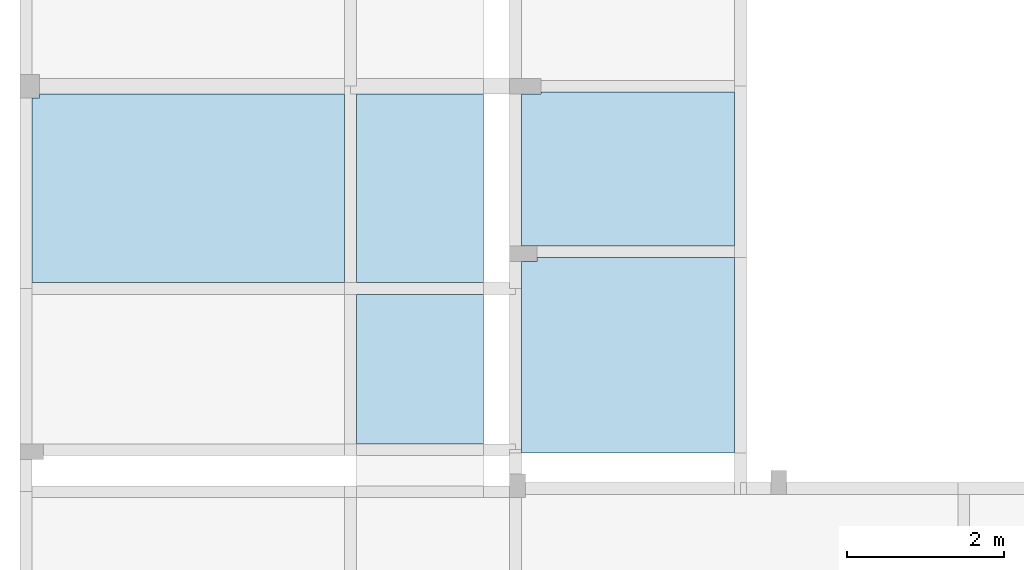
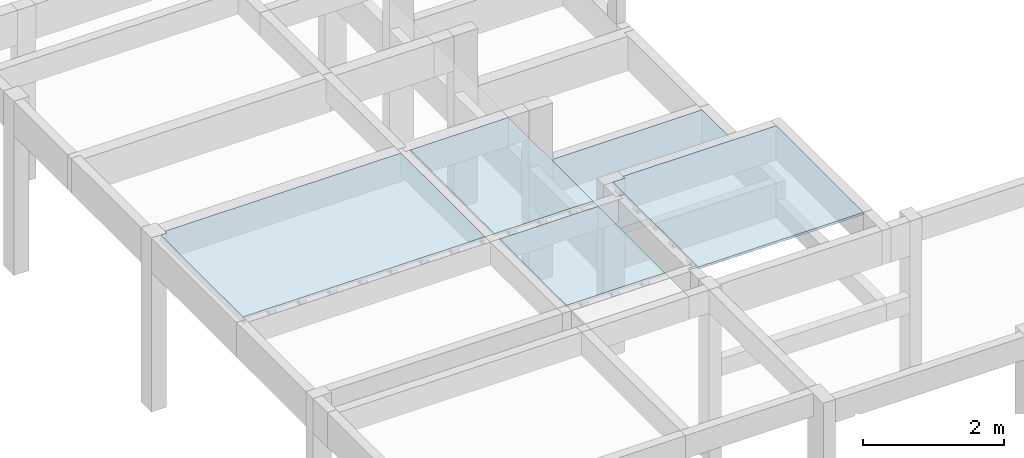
# One storey, part 9 of 21: 5 slabs.
"""IFC4 building model written with IfcOpenShell, lengths in centimetres."""

from ifc_helpers import new_model, si_unit, derived_unit, frame, origin_with_axes, place, context, project, spatial, polyline, outline, extrude, faceted_brep, material, element, save


model = new_model("IFC4")

# Units and contexts
model_context = context("Model", 3, precision=1e-05, world=origin_with_axes(), identifier="Body")
ifc_project = project(units=[si_unit("LENGTHUNIT", "METRE", prefix="CENTI"), si_unit("VOLUMEUNIT", "CUBIC_METRE"), si_unit("AREAUNIT", "SQUARE_METRE"), si_unit("POWERUNIT", "WATT"), si_unit("LUMINOUSFLUXUNIT", "LUMEN"), si_unit("ELECTRICCURRENTUNIT", "AMPERE"), si_unit("PRESSUREUNIT", "PASCAL", prefix="KILO"), si_unit("MASSUNIT", "GRAM", prefix="KILO"), si_unit("PLANEANGLEUNIT", "RADIAN"), derived_unit("VOLUMETRICFLOWRATEUNIT", [(si_unit("LENGTHUNIT", "METRE"), 3), (si_unit("TIMEUNIT", "SECOND"), -1)])], contexts=[model_context])

# Site, building, storey
site_placement = place(None, origin_with_axes())
site = spatial("IfcSite", under=ifc_project, at=site_placement)
building_placement = place(site_placement, frame((0.0, 0.0, -295.0)))
building = spatial("IfcBuilding", under=site, at=building_placement)
placement_1 = place(building_placement, origin_with_axes())
placement_2 = place(placement_1, frame((0.0, 0.0, 101.0), z_axis=(0.0, 0.0, 1.0), x_axis=(1.0, 0.0, 0.0)))
placement_3 = place(placement_2, frame((0.0, 0.0, 204.0), z_axis=(0.0, 0.0, 1.0), x_axis=(1.0, 0.0, 0.0)))
placement_4 = place(placement_3, frame((0.0, 0.0, 292.0), z_axis=(0.0, 0.0, 1.0), x_axis=(1.0, 0.0, 0.0)))
storey_placement = place(placement_4, frame((0.0, 0.0, 302.0), z_axis=(0.0, 0.0, 1.0), x_axis=(1.0, 0.0, 0.0)))
storey = spatial("IfcBuildingStorey", under=building, at=storey_placement, Name="PAVTO 02", CompositionType="ELEMENT", Elevation=604.0)

# Slabs
ifc_material = material(Name="Concreto")
slab_1_placement = place(storey_placement, frame((765.3995, -6455.3295047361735, 0.0), z_axis=(0.0, 0.0, 1.0), x_axis=(1.0, 0.0, 0.0)))
element("IfcSlab", 1, at=slab_1_placement, inside=storey, material=ifc_material, Name="L226", PredefinedType="FLOOR", context=model_context, shape_type="SolidModel", body=[
    extrude(outline(polyline([(198.669, 119.71), (-188.669, 119.709), (-188.669, 114.71), (-198.67, 114.71), (-198.67, -119.709), (198.669, -119.709), (198.669, 119.71), (198.669, 119.71)])), frame((0.0005, -0.000495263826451, -4.0), z_axis=(0.0, 0.0, 1.0), x_axis=(1.0, 0.0, 0.0)), (0.0, 0.0, 1.0), 4.0),
    faceted_brep([(-4.9995, -119.70949526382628, -12.0), (-4.9995, 119.70900473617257, -12.0), (5.0005, 119.70900473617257, -12.0), (5.0005, -119.70949526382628, -12.0), (5.0005, -119.70949526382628, -4.0), (5.0005, 119.70900473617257, -4.0), (-4.9995, 119.70900473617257, -4.0), (-4.9995, -119.70949526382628, -4.0)], [[[0, 1, 2, 3]], [[4, 5, 6, 7]], [[4, 3, 5]], [[3, 2, 5]], [[5, 2, 6]], [[2, 1, 6]], [[6, 1, 7]], [[1, 0, 7]], [[7, 0, 4]], [[0, 3, 4]]]),
    faceted_brep([(-6.4995, -119.70949526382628, -12.0), (-6.4995, 119.70900473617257, -12.0), (-4.9995, 119.70900473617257, -12.0), (-4.9995, -119.70949526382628, -12.0), (-4.9995, -119.70949526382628, -9.0), (-4.9995, 119.70900473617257, -9.0), (-6.4995, 119.70900473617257, -9.0), (-6.4995, -119.70949526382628, -9.0)], [[[0, 1, 2, 3]], [[4, 5, 6, 7]], [[4, 3, 5]], [[3, 2, 5]], [[5, 2, 6]], [[2, 1, 6]], [[6, 1, 7]], [[1, 0, 7]], [[7, 0, 4]], [[0, 3, 4]]]),
    faceted_brep([(5.0005, -119.70949526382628, -12.0), (5.0005, 119.70900473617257, -12.0), (6.5005, 119.70900473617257, -12.0), (6.5005, -119.70949526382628, -12.0), (6.5005, -119.70949526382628, -9.0), (6.5005, 119.70900473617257, -9.0), (5.0005, 119.70900473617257, -9.0), (5.0005, -119.70949526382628, -9.0)], [[[0, 1, 2, 3]], [[4, 5, 6, 7]], [[4, 3, 5]], [[3, 2, 5]], [[5, 2, 6]], [[2, 1, 6]], [[6, 1, 7]], [[1, 0, 7]], [[7, 0, 4]], [[0, 3, 4]]]),
    faceted_brep([(-54.9995, -119.70949526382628, -12.0), (-54.9995, 119.70900473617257, -12.0), (-44.9995, 119.70900473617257, -12.0), (-44.9995, -119.70949526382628, -12.0), (-44.9995, -119.70949526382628, -4.0), (-44.9995, 119.70900473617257, -4.0), (-54.9995, 119.70900473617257, -4.0), (-54.9995, -119.70949526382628, -4.0)], [[[0, 1, 2, 3]], [[4, 5, 6, 7]], [[4, 3, 5]], [[3, 2, 5]], [[5, 2, 6]], [[2, 1, 6]], [[6, 1, 7]], [[1, 0, 7]], [[7, 0, 4]], [[0, 3, 4]]]),
    faceted_brep([(-56.4995, -119.70949526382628, -12.0), (-56.4995, 119.70900473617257, -12.0), (-54.9995, 119.70900473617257, -12.0), (-54.9995, -119.70949526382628, -12.0), (-54.9995, -119.70949526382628, -9.0), (-54.9995, 119.70900473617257, -9.0), (-56.4995, 119.70900473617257, -9.0), (-56.4995, -119.70949526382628, -9.0)], [[[0, 1, 2, 3]], [[4, 5, 6, 7]], [[4, 3, 5]], [[3, 2, 5]], [[5, 2, 6]], [[2, 1, 6]], [[6, 1, 7]], [[1, 0, 7]], [[7, 0, 4]], [[0, 3, 4]]]),
    faceted_brep([(-44.9995, -119.70949526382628, -12.0), (-44.9995, 119.70900473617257, -12.0), (-43.4995, 119.70900473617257, -12.0), (-43.4995, -119.70949526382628, -12.0), (-43.4995, -119.70949526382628, -9.0), (-43.4995, 119.70900473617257, -9.0), (-44.9995, 119.70900473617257, -9.0), (-44.9995, -119.70949526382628, -9.0)], [[[0, 1, 2, 3]], [[4, 5, 6, 7]], [[4, 3, 5]], [[3, 2, 5]], [[5, 2, 6]], [[2, 1, 6]], [[6, 1, 7]], [[1, 0, 7]], [[7, 0, 4]], [[0, 3, 4]]]),
    faceted_brep([(-104.9995, -119.70949526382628, -12.0), (-104.9995, 119.70900473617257, -12.0), (-94.9995, 119.70900473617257, -12.0), (-94.9995, -119.70949526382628, -12.0), (-94.9995, -119.70949526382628, -4.0), (-94.9995, 119.70900473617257, -4.0), (-104.9995, 119.70900473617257, -4.0), (-104.9995, -119.70949526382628, -4.0)], [[[0, 1, 2, 3]], [[4, 5, 6, 7]], [[4, 3, 5]], [[3, 2, 5]], [[5, 2, 6]], [[2, 1, 6]], [[6, 1, 7]], [[1, 0, 7]], [[7, 0, 4]], [[0, 3, 4]]]),
    faceted_brep([(-106.4995, -119.70949526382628, -12.0), (-106.4995, 119.70900473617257, -12.0), (-104.9995, 119.70900473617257, -12.0), (-104.9995, -119.70949526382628, -12.0), (-104.9995, -119.70949526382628, -9.0), (-104.9995, 119.70900473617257, -9.0), (-106.4995, 119.70900473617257, -9.0), (-106.4995, -119.70949526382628, -9.0)], [[[0, 1, 2, 3]], [[4, 5, 6, 7]], [[4, 3, 5]], [[3, 2, 5]], [[5, 2, 6]], [[2, 1, 6]], [[6, 1, 7]], [[1, 0, 7]], [[7, 0, 4]], [[0, 3, 4]]]),
    faceted_brep([(-94.9995, -119.70949526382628, -12.0), (-94.9995, 119.70900473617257, -12.0), (-93.4995, 119.70900473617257, -12.0), (-93.4995, -119.70949526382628, -12.0), (-93.4995, -119.70949526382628, -9.0), (-93.4995, 119.70900473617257, -9.0), (-94.9995, 119.70900473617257, -9.0), (-94.9995, -119.70949526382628, -9.0)], [[[0, 1, 2, 3]], [[4, 5, 6, 7]], [[4, 3, 5]], [[3, 2, 5]], [[5, 2, 6]], [[2, 1, 6]], [[6, 1, 7]], [[1, 0, 7]], [[7, 0, 4]], [[0, 3, 4]]]),
    faceted_brep([(-154.9995, -119.70949526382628, -12.0), (-154.9995, 119.70900473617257, -12.0), (-144.9995, 119.70900473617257, -12.0), (-144.9995, -119.70949526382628, -12.0), (-144.9995, -119.70949526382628, -4.0), (-144.9995, 119.70900473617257, -4.0), (-154.9995, 119.70900473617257, -4.0), (-154.9995, -119.70949526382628, -4.0)], [[[0, 1, 2, 3]], [[4, 5, 6, 7]], [[4, 3, 5]], [[3, 2, 5]], [[5, 2, 6]], [[2, 1, 6]], [[6, 1, 7]], [[1, 0, 7]], [[7, 0, 4]], [[0, 3, 4]]]),
    faceted_brep([(-156.4995, -119.70949526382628, -12.0), (-156.4995, 119.70900473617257, -12.0), (-154.9995, 119.70900473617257, -12.0), (-154.9995, -119.70949526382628, -12.0), (-154.9995, -119.70949526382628, -9.0), (-154.9995, 119.70900473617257, -9.0), (-156.4995, 119.70900473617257, -9.0), (-156.4995, -119.70949526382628, -9.0)], [[[0, 1, 2, 3]], [[4, 5, 6, 7]], [[4, 3, 5]], [[3, 2, 5]], [[5, 2, 6]], [[2, 1, 6]], [[6, 1, 7]], [[1, 0, 7]], [[7, 0, 4]], [[0, 3, 4]]]),
    faceted_brep([(-144.9995, -119.70949526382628, -12.0), (-144.9995, 119.70900473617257, -12.0), (-143.4995, 119.70900473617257, -12.0), (-143.4995, -119.70949526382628, -12.0), (-143.4995, -119.70949526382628, -9.0), (-143.4995, 119.70900473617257, -9.0), (-144.9995, 119.70900473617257, -9.0), (-144.9995, -119.70949526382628, -9.0)], [[[0, 1, 2, 3]], [[4, 5, 6, 7]], [[4, 3, 5]], [[3, 2, 5]], [[5, 2, 6]], [[2, 1, 6]], [[6, 1, 7]], [[1, 0, 7]], [[7, 0, 4]], [[0, 3, 4]]]),
    faceted_brep([(-198.6695, -119.70949526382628, -12.0), (-198.6695, 114.70950473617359, -12.0), (-194.9995, 114.70950473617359, -12.0), (-194.9995, -119.70949526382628, -12.0), (-194.9995, -119.70949526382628, -4.0), (-194.9995, 114.70950473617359, -4.0), (-198.6695, 114.70950473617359, -4.0), (-198.6695, -119.70949526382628, -4.0)], [[[0, 1, 2, 3]], [[4, 5, 6, 7]], [[4, 3, 5]], [[3, 2, 5]], [[5, 2, 6]], [[2, 1, 6]], [[6, 1, 7]], [[1, 0, 7]], [[7, 0, 4]], [[0, 3, 4]]]),
    faceted_brep([(-194.9995, -119.70949526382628, -12.0), (-194.9995, 114.70950473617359, -12.0), (-193.4995, 114.70950473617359, -12.0), (-193.4995, -119.70949526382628, -12.0), (-193.4995, -119.70949526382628, -9.0), (-193.4995, 114.70950473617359, -9.0), (-194.9995, 114.70950473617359, -9.0), (-194.9995, -119.70949526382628, -9.0)], [[[0, 1, 2, 3]], [[4, 5, 6, 7]], [[4, 3, 5]], [[3, 2, 5]], [[5, 2, 6]], [[2, 1, 6]], [[6, 1, 7]], [[1, 0, 7]], [[7, 0, 4]], [[0, 3, 4]]]),
    faceted_brep([(45.0005, -119.70949526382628, -12.0), (45.0005, 119.70900473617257, -12.0), (55.0005, 119.70900473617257, -12.0), (55.0005, -119.70949526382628, -12.0), (55.0005, -119.70949526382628, -4.0), (55.0005, 119.70900473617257, -4.0), (45.0005, 119.70900473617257, -4.0), (45.0005, -119.70949526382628, -4.0)], [[[0, 1, 2, 3]], [[4, 5, 6, 7]], [[4, 3, 5]], [[3, 2, 5]], [[5, 2, 6]], [[2, 1, 6]], [[6, 1, 7]], [[1, 0, 7]], [[7, 0, 4]], [[0, 3, 4]]]),
    faceted_brep([(43.5005, -119.70949526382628, -12.0), (43.5005, 119.70900473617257, -12.0), (45.0005, 119.70900473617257, -12.0), (45.0005, -119.70949526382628, -12.0), (45.0005, -119.70949526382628, -9.0), (45.0005, 119.70900473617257, -9.0), (43.5005, 119.70900473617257, -9.0), (43.5005, -119.70949526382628, -9.0)], [[[0, 1, 2, 3]], [[4, 5, 6, 7]], [[4, 3, 5]], [[3, 2, 5]], [[5, 2, 6]], [[2, 1, 6]], [[6, 1, 7]], [[1, 0, 7]], [[7, 0, 4]], [[0, 3, 4]]]),
    faceted_brep([(55.0005, -119.70949526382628, -12.0), (55.0005, 119.70900473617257, -12.0), (56.5005, 119.70900473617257, -12.0), (56.5005, -119.70949526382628, -12.0), (56.5005, -119.70949526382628, -9.0), (56.5005, 119.70900473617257, -9.0), (55.0005, 119.70900473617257, -9.0), (55.0005, -119.70949526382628, -9.0)], [[[0, 1, 2, 3]], [[4, 5, 6, 7]], [[4, 3, 5]], [[3, 2, 5]], [[5, 2, 6]], [[2, 1, 6]], [[6, 1, 7]], [[1, 0, 7]], [[7, 0, 4]], [[0, 3, 4]]]),
    faceted_brep([(95.0005, -119.70949526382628, -12.0), (95.0005, 119.70900473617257, -12.0), (105.0005, 119.70900473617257, -12.0), (105.0005, -119.70949526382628, -12.0), (105.0005, -119.70949526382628, -4.0), (105.0005, 119.70900473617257, -4.0), (95.0005, 119.70900473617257, -4.0), (95.0005, -119.70949526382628, -4.0)], [[[0, 1, 2, 3]], [[4, 5, 6, 7]], [[4, 3, 5]], [[3, 2, 5]], [[5, 2, 6]], [[2, 1, 6]], [[6, 1, 7]], [[1, 0, 7]], [[7, 0, 4]], [[0, 3, 4]]]),
    faceted_brep([(93.5005, -119.70949526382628, -12.0), (93.5005, 119.70900473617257, -12.0), (95.0005, 119.70900473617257, -12.0), (95.0005, -119.70949526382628, -12.0), (95.0005, -119.70949526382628, -9.0), (95.0005, 119.70900473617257, -9.0), (93.5005, 119.70900473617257, -9.0), (93.5005, -119.70949526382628, -9.0)], [[[0, 1, 2, 3]], [[4, 5, 6, 7]], [[4, 3, 5]], [[3, 2, 5]], [[5, 2, 6]], [[2, 1, 6]], [[6, 1, 7]], [[1, 0, 7]], [[7, 0, 4]], [[0, 3, 4]]]),
    faceted_brep([(105.0005, -119.70949526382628, -12.0), (105.0005, 119.70900473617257, -12.0), (106.5005, 119.70900473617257, -12.0), (106.5005, -119.70949526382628, -12.0), (106.5005, -119.70949526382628, -9.0), (106.5005, 119.70900473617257, -9.0), (105.0005, 119.70900473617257, -9.0), (105.0005, -119.70949526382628, -9.0)], [[[0, 1, 2, 3]], [[4, 5, 6, 7]], [[4, 3, 5]], [[3, 2, 5]], [[5, 2, 6]], [[2, 1, 6]], [[6, 1, 7]], [[1, 0, 7]], [[7, 0, 4]], [[0, 3, 4]]]),
    faceted_brep([(145.0005, -119.70949526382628, -12.0), (145.0005, 119.70900473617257, -12.0), (155.0005, 119.70900473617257, -12.0), (155.0005, -119.70949526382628, -12.0), (155.0005, -119.70949526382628, -4.0), (155.0005, 119.70900473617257, -4.0), (145.0005, 119.70900473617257, -4.0), (145.0005, -119.70949526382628, -4.0)], [[[0, 1, 2, 3]], [[4, 5, 6, 7]], [[4, 3, 5]], [[3, 2, 5]], [[5, 2, 6]], [[2, 1, 6]], [[6, 1, 7]], [[1, 0, 7]], [[7, 0, 4]], [[0, 3, 4]]]),
    faceted_brep([(143.5005, -119.70949526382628, -12.0), (143.5005, 119.70900473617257, -12.0), (145.0005, 119.70900473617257, -12.0), (145.0005, -119.70949526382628, -12.0), (145.0005, -119.70949526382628, -9.0), (145.0005, 119.70900473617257, -9.0), (143.5005, 119.70900473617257, -9.0), (143.5005, -119.70949526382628, -9.0)], [[[0, 1, 2, 3]], [[4, 5, 6, 7]], [[4, 3, 5]], [[3, 2, 5]], [[5, 2, 6]], [[2, 1, 6]], [[6, 1, 7]], [[1, 0, 7]], [[7, 0, 4]], [[0, 3, 4]]]),
    faceted_brep([(155.0005, -119.70949526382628, -12.0), (155.0005, 119.70900473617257, -12.0), (156.5005, 119.70900473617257, -12.0), (156.5005, -119.70949526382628, -12.0), (156.5005, -119.70949526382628, -9.0), (156.5005, 119.70900473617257, -9.0), (155.0005, 119.70900473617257, -9.0), (155.0005, -119.70949526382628, -9.0)], [[[0, 1, 2, 3]], [[4, 5, 6, 7]], [[4, 3, 5]], [[3, 2, 5]], [[5, 2, 6]], [[2, 1, 6]], [[6, 1, 7]], [[1, 0, 7]], [[7, 0, 4]], [[0, 3, 4]]]),
    faceted_brep([(195.0005, -119.70949526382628, -12.0), (195.0005, 119.70900473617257, -12.0), (198.6695, 119.70949526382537, -12.0), (198.6695, -119.70949526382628, -12.0), (198.6695, -119.70949526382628, -4.0), (198.6695, 119.70949526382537, -4.0), (195.0005, 119.70900473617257, -4.0), (195.0005, -119.70949526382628, -4.0)], [[[0, 1, 2, 3]], [[4, 5, 6, 7]], [[4, 3, 5]], [[3, 2, 5]], [[5, 2, 6]], [[2, 1, 6]], [[6, 1, 7]], [[1, 0, 7]], [[7, 0, 4]], [[0, 3, 4]]]),
    faceted_brep([(193.5005, -119.70949526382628, -12.0), (193.5005, 119.70900473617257, -12.0), (195.0005, 119.70900473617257, -12.0), (195.0005, -119.70949526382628, -12.0), (195.0005, -119.70949526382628, -9.0), (195.0005, 119.70900473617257, -9.0), (193.5005, 119.70900473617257, -9.0), (193.5005, -119.70949526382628, -9.0)], [[[0, 1, 2, 3]], [[4, 5, 6, 7]], [[4, 3, 5]], [[3, 2, 5]], [[5, 2, 6]], [[2, 1, 6]], [[6, 1, 7]], [[1, 0, 7]], [[7, 0, 4]], [[0, 3, 4]]]),
])
slab_2_placement = place(storey_placement, frame((1059.985, -6455.33, 0.0), z_axis=(0.0, 0.0, 1.0), x_axis=(1.0, 0.0, 0.0)))
element("IfcSlab", 2, at=slab_2_placement, inside=storey, material=ifc_material, Name="L227", PredefinedType="FLOOR", context=model_context, shape_type="SolidModel", body=[
    extrude(outline(polyline([(80.915, -119.709), (80.915, 119.71), (-80.914, 119.71), (-80.915, -119.71), (80.915, -119.709), (80.915, -119.709)])), frame((0.0, 0.0, -4.0), z_axis=(0.0, 0.0, 1.0), x_axis=(1.0, 0.0, 0.0)), (0.0, 0.0, 1.0), 4.0),
    faceted_brep([(-5.0, -119.7095, -12.0), (-5.0, 119.71, -12.0), (5.0, 119.71, -12.0), (5.0, -119.7095, -12.0), (5.0, -119.7095, -4.0), (5.0, 119.71, -4.0), (-5.0, 119.71, -4.0), (-5.0, -119.7095, -4.0)], [[[0, 1, 2, 3]], [[4, 5, 6, 7]], [[4, 3, 5]], [[3, 2, 5]], [[5, 2, 6]], [[2, 1, 6]], [[6, 1, 7]], [[1, 0, 7]], [[7, 0, 4]], [[0, 3, 4]]]),
    faceted_brep([(-6.5, -119.7095, -12.0), (-6.5, 119.71, -12.0), (-5.0, 119.71, -12.0), (-5.0, -119.7095, -12.0), (-5.0, -119.7095, -9.0), (-5.0, 119.71, -9.0), (-6.5, 119.71, -9.0), (-6.5, -119.7095, -9.0)], [[[0, 1, 2, 3]], [[4, 5, 6, 7]], [[4, 3, 5]], [[3, 2, 5]], [[5, 2, 6]], [[2, 1, 6]], [[6, 1, 7]], [[1, 0, 7]], [[7, 0, 4]], [[0, 3, 4]]]),
    faceted_brep([(5.0, -119.7095, -12.0), (5.0, 119.71, -12.0), (6.5, 119.71, -12.0), (6.5, -119.7095, -12.0), (6.5, -119.7095, -9.0), (6.5, 119.71, -9.0), (5.0, 119.71, -9.0), (5.0, -119.7095, -9.0)], [[[0, 1, 2, 3]], [[4, 5, 6, 7]], [[4, 3, 5]], [[3, 2, 5]], [[5, 2, 6]], [[2, 1, 6]], [[6, 1, 7]], [[1, 0, 7]], [[7, 0, 4]], [[0, 3, 4]]]),
    faceted_brep([(-55.0, -119.7095, -12.0), (-55.0, 119.71, -12.0), (-45.0, 119.71, -12.0), (-45.0, -119.7095, -12.0), (-45.0, -119.7095, -4.0), (-45.0, 119.71, -4.0), (-55.0, 119.71, -4.0), (-55.0, -119.7095, -4.0)], [[[0, 1, 2, 3]], [[4, 5, 6, 7]], [[4, 3, 5]], [[3, 2, 5]], [[5, 2, 6]], [[2, 1, 6]], [[6, 1, 7]], [[1, 0, 7]], [[7, 0, 4]], [[0, 3, 4]]]),
    faceted_brep([(-56.5, -119.7095, -12.0), (-56.5, 119.71, -12.0), (-55.0, 119.71, -12.0), (-55.0, -119.7095, -12.0), (-55.0, -119.7095, -9.0), (-55.0, 119.71, -9.0), (-56.5, 119.71, -9.0), (-56.5, -119.7095, -9.0)], [[[0, 1, 2, 3]], [[4, 5, 6, 7]], [[4, 3, 5]], [[3, 2, 5]], [[5, 2, 6]], [[2, 1, 6]], [[6, 1, 7]], [[1, 0, 7]], [[7, 0, 4]], [[0, 3, 4]]]),
    faceted_brep([(-45.0, -119.7095, -12.0), (-45.0, 119.71, -12.0), (-43.5, 119.71, -12.0), (-43.5, -119.7095, -12.0), (-43.5, -119.7095, -9.0), (-43.5, 119.71, -9.0), (-45.0, 119.71, -9.0), (-45.0, -119.7095, -9.0)], [[[0, 1, 2, 3]], [[4, 5, 6, 7]], [[4, 3, 5]], [[3, 2, 5]], [[5, 2, 6]], [[2, 1, 6]], [[6, 1, 7]], [[1, 0, 7]], [[7, 0, 4]], [[0, 3, 4]]]),
    faceted_brep([(45.0, -119.7095, -12.0), (45.0, 119.71, -12.0), (55.0, 119.71, -12.0), (55.0, -119.7095, -12.0), (55.0, -119.7095, -4.0), (55.0, 119.71, -4.0), (45.0, 119.71, -4.0), (45.0, -119.7095, -4.0)], [[[0, 1, 2, 3]], [[4, 5, 6, 7]], [[4, 3, 5]], [[3, 2, 5]], [[5, 2, 6]], [[2, 1, 6]], [[6, 1, 7]], [[1, 0, 7]], [[7, 0, 4]], [[0, 3, 4]]]),
    faceted_brep([(43.5, -119.7095, -12.0), (43.5, 119.71, -12.0), (45.0, 119.71, -12.0), (45.0, -119.7095, -12.0), (45.0, -119.7095, -9.0), (45.0, 119.71, -9.0), (43.5, 119.71, -9.0), (43.5, -119.7095, -9.0)], [[[0, 1, 2, 3]], [[4, 5, 6, 7]], [[4, 3, 5]], [[3, 2, 5]], [[5, 2, 6]], [[2, 1, 6]], [[6, 1, 7]], [[1, 0, 7]], [[7, 0, 4]], [[0, 3, 4]]]),
    faceted_brep([(55.0, -119.7095, -12.0), (55.0, 119.71, -12.0), (56.5, 119.71, -12.0), (56.5, -119.7095, -12.0), (56.5, -119.7095, -9.0), (56.5, 119.71, -9.0), (55.0, 119.71, -9.0), (55.0, -119.7095, -9.0)], [[[0, 1, 2, 3]], [[4, 5, 6, 7]], [[4, 3, 5]], [[3, 2, 5]], [[5, 2, 6]], [[2, 1, 6]], [[6, 1, 7]], [[1, 0, 7]], [[7, 0, 4]], [[0, 3, 4]]]),
])
slab_3_placement = place(storey_placement, frame((1059.985, -6685.0395, 0.0), z_axis=(0.0, 0.0, 1.0), x_axis=(1.0, 0.0, 0.0)))
element("IfcSlab", 3, at=slab_3_placement, inside=storey, material=ifc_material, Name="L232", PredefinedType="FLOOR", context=model_context, shape_type="SolidModel", body=[
    extrude(outline(polyline([(80.915, 95.0), (-80.915, 94.999), (-80.914, -94.999), (80.915, -94.999), (80.915, 95.0), (80.915, 95.0)])), frame((0.0, -0.0005, -4.0), z_axis=(0.0, 0.0, 1.0), x_axis=(1.0, 0.0, 0.0)), (0.0, 0.0, 1.0), 4.0),
    faceted_brep([(-5.0, -94.9995, -12.0), (-5.0, 94.999, -12.0), (5.0, 94.999, -12.0), (5.0, -94.9995, -12.0), (5.0, -94.9995, -4.0), (5.0, 94.999, -4.0), (-5.0, 94.999, -4.0), (-5.0, -94.9995, -4.0)], [[[0, 1, 2, 3]], [[4, 5, 6, 7]], [[4, 3, 5]], [[3, 2, 5]], [[5, 2, 6]], [[2, 1, 6]], [[6, 1, 7]], [[1, 0, 7]], [[7, 0, 4]], [[0, 3, 4]]]),
    faceted_brep([(-6.5, -94.9995, -12.0), (-6.5, 94.999, -12.0), (-5.0, 94.999, -12.0), (-5.0, -94.9995, -12.0), (-5.0, -94.9995, -9.0), (-5.0, 94.999, -9.0), (-6.5, 94.999, -9.0), (-6.5, -94.9995, -9.0)], [[[0, 1, 2, 3]], [[4, 5, 6, 7]], [[4, 3, 5]], [[3, 2, 5]], [[5, 2, 6]], [[2, 1, 6]], [[6, 1, 7]], [[1, 0, 7]], [[7, 0, 4]], [[0, 3, 4]]]),
    faceted_brep([(5.0, -94.9995, -12.0), (5.0, 94.999, -12.0), (6.5, 94.999, -12.0), (6.5, -94.9995, -12.0), (6.5, -94.9995, -9.0), (6.5, 94.999, -9.0), (5.0, 94.999, -9.0), (5.0, -94.9995, -9.0)], [[[0, 1, 2, 3]], [[4, 5, 6, 7]], [[4, 3, 5]], [[3, 2, 5]], [[5, 2, 6]], [[2, 1, 6]], [[6, 1, 7]], [[1, 0, 7]], [[7, 0, 4]], [[0, 3, 4]]]),
    faceted_brep([(-55.0, -94.9995, -12.0), (-55.0, 94.999, -12.0), (-45.0, 94.999, -12.0), (-45.0, -94.9995, -12.0), (-45.0, -94.9995, -4.0), (-45.0, 94.999, -4.0), (-55.0, 94.999, -4.0), (-55.0, -94.9995, -4.0)], [[[0, 1, 2, 3]], [[4, 5, 6, 7]], [[4, 3, 5]], [[3, 2, 5]], [[5, 2, 6]], [[2, 1, 6]], [[6, 1, 7]], [[1, 0, 7]], [[7, 0, 4]], [[0, 3, 4]]]),
    faceted_brep([(-56.5, -94.9995, -12.0), (-56.5, 94.999, -12.0), (-55.0, 94.999, -12.0), (-55.0, -94.9995, -12.0), (-55.0, -94.9995, -9.0), (-55.0, 94.999, -9.0), (-56.5, 94.999, -9.0), (-56.5, -94.9995, -9.0)], [[[0, 1, 2, 3]], [[4, 5, 6, 7]], [[4, 3, 5]], [[3, 2, 5]], [[5, 2, 6]], [[2, 1, 6]], [[6, 1, 7]], [[1, 0, 7]], [[7, 0, 4]], [[0, 3, 4]]]),
    faceted_brep([(-45.0, -94.9995, -12.0), (-45.0, 94.999, -12.0), (-43.5, 94.999, -12.0), (-43.5, -94.9995, -12.0), (-43.5, -94.9995, -9.0), (-43.5, 94.999, -9.0), (-45.0, 94.999, -9.0), (-45.0, -94.9995, -9.0)], [[[0, 1, 2, 3]], [[4, 5, 6, 7]], [[4, 3, 5]], [[3, 2, 5]], [[5, 2, 6]], [[2, 1, 6]], [[6, 1, 7]], [[1, 0, 7]], [[7, 0, 4]], [[0, 3, 4]]]),
    faceted_brep([(45.0, -94.9995, -12.0), (45.0, 94.999, -12.0), (55.0, 94.999, -12.0), (55.0, -94.9995, -12.0), (55.0, -94.9995, -4.0), (55.0, 94.999, -4.0), (45.0, 94.999, -4.0), (45.0, -94.9995, -4.0)], [[[0, 1, 2, 3]], [[4, 5, 6, 7]], [[4, 3, 5]], [[3, 2, 5]], [[5, 2, 6]], [[2, 1, 6]], [[6, 1, 7]], [[1, 0, 7]], [[7, 0, 4]], [[0, 3, 4]]]),
    faceted_brep([(43.5, -94.9995, -12.0), (43.5, 94.999, -12.0), (45.0, 94.999, -12.0), (45.0, -94.9995, -12.0), (45.0, -94.9995, -9.0), (45.0, 94.999, -9.0), (43.5, 94.999, -9.0), (43.5, -94.9995, -9.0)], [[[0, 1, 2, 3]], [[4, 5, 6, 7]], [[4, 3, 5]], [[3, 2, 5]], [[5, 2, 6]], [[2, 1, 6]], [[6, 1, 7]], [[1, 0, 7]], [[7, 0, 4]], [[0, 3, 4]]]),
    faceted_brep([(55.0, -94.9995, -12.0), (55.0, 94.999, -12.0), (56.5, 94.999, -12.0), (56.5, -94.9995, -12.0), (56.5, -94.9995, -9.0), (56.5, 94.999, -9.0), (55.0, 94.999, -9.0), (55.0, -94.9995, -9.0)], [[[0, 1, 2, 3]], [[4, 5, 6, 7]], [[4, 3, 5]], [[3, 2, 5]], [[5, 2, 6]], [[2, 1, 6]], [[6, 1, 7]], [[1, 0, 7]], [[7, 0, 4]], [[0, 3, 4]]]),
])
slab_4_placement = place(storey_placement, frame((1324.4005, -6667.5555, 0.0), z_axis=(0.0, 0.0, 1.0), x_axis=(1.0, 0.0, 0.0)))
element("IfcSlab", 4, at=slab_4_placement, inside=storey, material=ifc_material, Name="L233", PredefinedType="FLOOR", context=model_context, shape_type="SolidModel", body=[
    extrude(outline(polyline([(135.5, 124.004), (-115.499, 124.004), (-115.499, 119.004), (-135.499, 119.004), (-135.499, -124.005), (135.5, -124.005), (135.5, 124.004), (135.5, 124.004)])), frame((-0.0005, 0.0005, -4.0), z_axis=(0.0, 0.0, 1.0), x_axis=(1.0, 0.0, 0.0)), (0.0, 0.0, 1.0), 4.0),
    faceted_brep([(-135.4995, -89.9995, -12.0), (135.4995, -89.9995, -12.0), (135.4995, -99.9995, -12.0), (-135.4995, -99.9995, -12.0), (-135.4995, -99.9995, -4.0), (135.4995, -99.9995, -4.0), (135.4995, -89.9995, -4.0), (-135.4995, -89.9995, -4.0)], [[[0, 1, 2, 3]], [[4, 5, 6, 7]], [[4, 3, 5]], [[3, 2, 5]], [[5, 2, 6]], [[2, 1, 6]], [[6, 1, 7]], [[1, 0, 7]], [[7, 0, 4]], [[0, 3, 4]]]),
    faceted_brep([(-135.4995, -88.4995, -12.0), (135.4995, -88.4995, -12.0), (135.4995, -89.9995, -12.0), (-135.4995, -89.9995, -12.0), (-135.4995, -89.9995, -9.0), (135.4995, -89.9995, -9.0), (135.4995, -88.4995, -9.0), (-135.4995, -88.4995, -9.0)], [[[0, 1, 2, 3]], [[4, 5, 6, 7]], [[4, 3, 5]], [[3, 2, 5]], [[5, 2, 6]], [[2, 1, 6]], [[6, 1, 7]], [[1, 0, 7]], [[7, 0, 4]], [[0, 3, 4]]]),
    faceted_brep([(-135.4995, -99.9995, -12.0), (135.4995, -99.9995, -12.0), (135.4995, -101.4995, -12.0), (-135.4995, -101.4995, -12.0), (-135.4995, -101.4995, -9.0), (135.4995, -101.4995, -9.0), (135.4995, -99.9995, -9.0), (-135.4995, -99.9995, -9.0)], [[[0, 1, 2, 3]], [[4, 5, 6, 7]], [[4, 3, 5]], [[3, 2, 5]], [[5, 2, 6]], [[2, 1, 6]], [[6, 1, 7]], [[1, 0, 7]], [[7, 0, 4]], [[0, 3, 4]]]),
    faceted_brep([(-135.4995, -39.9995, -12.0), (135.4995, -39.9995, -12.0), (135.4995, -49.9995, -12.0), (-135.4995, -49.9995, -12.0), (-135.4995, -49.9995, -4.0), (135.4995, -49.9995, -4.0), (135.4995, -39.9995, -4.0), (-135.4995, -39.9995, -4.0)], [[[0, 1, 2, 3]], [[4, 5, 6, 7]], [[4, 3, 5]], [[3, 2, 5]], [[5, 2, 6]], [[2, 1, 6]], [[6, 1, 7]], [[1, 0, 7]], [[7, 0, 4]], [[0, 3, 4]]]),
    faceted_brep([(-135.4995, -38.4995, -12.0), (135.4995, -38.4995, -12.0), (135.4995, -39.9995, -12.0), (-135.4995, -39.9995, -12.0), (-135.4995, -39.9995, -9.0), (135.4995, -39.9995, -9.0), (135.4995, -38.4995, -9.0), (-135.4995, -38.4995, -9.0)], [[[0, 1, 2, 3]], [[4, 5, 6, 7]], [[4, 3, 5]], [[3, 2, 5]], [[5, 2, 6]], [[2, 1, 6]], [[6, 1, 7]], [[1, 0, 7]], [[7, 0, 4]], [[0, 3, 4]]]),
    faceted_brep([(-135.4995, -49.9995, -12.0), (135.4995, -49.9995, -12.0), (135.4995, -51.4995, -12.0), (-135.4995, -51.4995, -12.0), (-135.4995, -51.4995, -9.0), (135.4995, -51.4995, -9.0), (135.4995, -49.9995, -9.0), (-135.4995, -49.9995, -9.0)], [[[0, 1, 2, 3]], [[4, 5, 6, 7]], [[4, 3, 5]], [[3, 2, 5]], [[5, 2, 6]], [[2, 1, 6]], [[6, 1, 7]], [[1, 0, 7]], [[7, 0, 4]], [[0, 3, 4]]]),
    faceted_brep([(-135.4995, 10.0005, -12.0), (135.4995, 10.0005, -12.0), (135.4995, 0.0005, -12.0), (-135.4995, 0.0005, -12.0), (-135.4995, 0.0005, -4.0), (135.4995, 0.0005, -4.0), (135.4995, 10.0005, -4.0), (-135.4995, 10.0005, -4.0)], [[[0, 1, 2, 3]], [[4, 5, 6, 7]], [[4, 3, 5]], [[3, 2, 5]], [[5, 2, 6]], [[2, 1, 6]], [[6, 1, 7]], [[1, 0, 7]], [[7, 0, 4]], [[0, 3, 4]]]),
    faceted_brep([(-135.4995, 11.5005, -12.0), (135.4995, 11.5005, -12.0), (135.4995, 10.0005, -12.0), (-135.4995, 10.0005, -12.0), (-135.4995, 10.0005, -9.0), (135.4995, 10.0005, -9.0), (135.4995, 11.5005, -9.0), (-135.4995, 11.5005, -9.0)], [[[0, 1, 2, 3]], [[4, 5, 6, 7]], [[4, 3, 5]], [[3, 2, 5]], [[5, 2, 6]], [[2, 1, 6]], [[6, 1, 7]], [[1, 0, 7]], [[7, 0, 4]], [[0, 3, 4]]]),
    faceted_brep([(-135.4995, 0.0005, -12.0), (135.4995, 0.0005, -12.0), (135.4995, -1.4995, -12.0), (-135.4995, -1.4995, -12.0), (-135.4995, -1.4995, -9.0), (135.4995, -1.4995, -9.0), (135.4995, 0.0005, -9.0), (-135.4995, 0.0005, -9.0)], [[[0, 1, 2, 3]], [[4, 5, 6, 7]], [[4, 3, 5]], [[3, 2, 5]], [[5, 2, 6]], [[2, 1, 6]], [[6, 1, 7]], [[1, 0, 7]], [[7, 0, 4]], [[0, 3, 4]]]),
    faceted_brep([(-135.4995, 60.0005, -12.0), (135.4995, 60.0005, -12.0), (135.4995, 50.0005, -12.0), (-135.4995, 50.0005, -12.0), (-135.4995, 50.0005, -4.0), (135.4995, 50.0005, -4.0), (135.4995, 60.0005, -4.0), (-135.4995, 60.0005, -4.0)], [[[0, 1, 2, 3]], [[4, 5, 6, 7]], [[4, 3, 5]], [[3, 2, 5]], [[5, 2, 6]], [[2, 1, 6]], [[6, 1, 7]], [[1, 0, 7]], [[7, 0, 4]], [[0, 3, 4]]]),
    faceted_brep([(-135.4995, 61.5005, -12.0), (135.4995, 61.5005, -12.0), (135.4995, 60.0005, -12.0), (-135.4995, 60.0005, -12.0), (-135.4995, 60.0005, -9.0), (135.4995, 60.0005, -9.0), (135.4995, 61.5005, -9.0), (-135.4995, 61.5005, -9.0)], [[[0, 1, 2, 3]], [[4, 5, 6, 7]], [[4, 3, 5]], [[3, 2, 5]], [[5, 2, 6]], [[2, 1, 6]], [[6, 1, 7]], [[1, 0, 7]], [[7, 0, 4]], [[0, 3, 4]]]),
    faceted_brep([(-135.4995, 50.0005, -12.0), (135.4995, 50.0005, -12.0), (135.4995, 48.5005, -12.0), (-135.4995, 48.5005, -12.0), (-135.4995, 48.5005, -9.0), (135.4995, 48.5005, -9.0), (135.4995, 50.0005, -9.0), (-135.4995, 50.0005, -9.0)], [[[0, 1, 2, 3]], [[4, 5, 6, 7]], [[4, 3, 5]], [[3, 2, 5]], [[5, 2, 6]], [[2, 1, 6]], [[6, 1, 7]], [[1, 0, 7]], [[7, 0, 4]], [[0, 3, 4]]]),
    faceted_brep([(-135.4995, 110.0005, -12.0), (135.4995, 110.0005, -12.0), (135.4995, 100.0005, -12.0), (-135.4995, 100.0005, -12.0), (-135.4995, 100.0005, -4.0), (135.4995, 100.0005, -4.0), (135.4995, 110.0005, -4.0), (-135.4995, 110.0005, -4.0)], [[[0, 1, 2, 3]], [[4, 5, 6, 7]], [[4, 3, 5]], [[3, 2, 5]], [[5, 2, 6]], [[2, 1, 6]], [[6, 1, 7]], [[1, 0, 7]], [[7, 0, 4]], [[0, 3, 4]]]),
    faceted_brep([(-135.4995, 111.5005, -12.0), (135.4995, 111.5005, -12.0), (135.4995, 110.0005, -12.0), (-135.4995, 110.0005, -12.0), (-135.4995, 110.0005, -9.0), (135.4995, 110.0005, -9.0), (135.4995, 111.5005, -9.0), (-135.4995, 111.5005, -9.0)], [[[0, 1, 2, 3]], [[4, 5, 6, 7]], [[4, 3, 5]], [[3, 2, 5]], [[5, 2, 6]], [[2, 1, 6]], [[6, 1, 7]], [[1, 0, 7]], [[7, 0, 4]], [[0, 3, 4]]]),
    faceted_brep([(-135.4995, 100.0005, -12.0), (135.4995, 100.0005, -12.0), (135.4995, 98.5005, -12.0), (-135.4995, 98.5005, -12.0), (-135.4995, 98.5005, -9.0), (135.4995, 98.5005, -9.0), (135.4995, 100.0005, -9.0), (-135.4995, 100.0005, -9.0)], [[[0, 1, 2, 3]], [[4, 5, 6, 7]], [[4, 3, 5]], [[3, 2, 5]], [[5, 2, 6]], [[2, 1, 6]], [[6, 1, 7]], [[1, 0, 7]], [[7, 0, 4]], [[0, 3, 4]]]),
])
slab_5_placement = place(storey_placement, frame((1324.4, -6430.8355, -100.0), z_axis=(0.0, 0.0, 1.0), x_axis=(1.0, 0.0, 0.0)))
element("IfcSlab", 5, at=slab_5_placement, inside=storey, material=ifc_material, Name="L250", PredefinedType="FLOOR", context=model_context, shape_type="SolidModel", body=[
    extrude(outline(polyline([(135.5, 97.714), (-110.499, 97.714), (-110.499, 95.215), (-135.5, 95.215), (-135.5, -97.715), (135.499, -97.715), (135.5, 97.714), (135.5, 97.714)])), frame((0.0, 0.0005, -4.0), z_axis=(0.0, 0.0, 1.0), x_axis=(1.0, 0.0, 0.0)), (0.0, 0.0, 1.0), 4.0),
    faceted_brep([(-135.5, -39.9995, -12.0), (135.4995, -39.9995, -12.0), (135.4995, -49.9995, -12.0), (-135.5, -49.9995, -12.0), (-135.5, -49.9995, -4.0), (135.4995, -49.9995, -4.0), (135.4995, -39.9995, -4.0), (-135.5, -39.9995, -4.0)], [[[0, 1, 2, 3]], [[4, 5, 6, 7]], [[4, 3, 5]], [[3, 2, 5]], [[5, 2, 6]], [[2, 1, 6]], [[6, 1, 7]], [[1, 0, 7]], [[7, 0, 4]], [[0, 3, 4]]]),
    faceted_brep([(-135.5, -38.4995, -12.0), (135.4995, -38.4995, -12.0), (135.4995, -39.9995, -12.0), (-135.5, -39.9995, -12.0), (-135.5, -39.9995, -9.0), (135.4995, -39.9995, -9.0), (135.4995, -38.4995, -9.0), (-135.5, -38.4995, -9.0)], [[[0, 1, 2, 3]], [[4, 5, 6, 7]], [[4, 3, 5]], [[3, 2, 5]], [[5, 2, 6]], [[2, 1, 6]], [[6, 1, 7]], [[1, 0, 7]], [[7, 0, 4]], [[0, 3, 4]]]),
    faceted_brep([(-135.5, -49.9995, -12.0), (135.4995, -49.9995, -12.0), (135.4995, -51.4995, -12.0), (-135.5, -51.4995, -12.0), (-135.5, -51.4995, -9.0), (135.4995, -51.4995, -9.0), (135.4995, -49.9995, -9.0), (-135.5, -49.9995, -9.0)], [[[0, 1, 2, 3]], [[4, 5, 6, 7]], [[4, 3, 5]], [[3, 2, 5]], [[5, 2, 6]], [[2, 1, 6]], [[6, 1, 7]], [[1, 0, 7]], [[7, 0, 4]], [[0, 3, 4]]]),
    faceted_brep([(-135.5, 10.0005, -12.0), (135.4995, 10.0005, -12.0), (135.4995, 0.0005, -12.0), (-135.5, 0.0005, -12.0), (-135.5, 0.0005, -4.0), (135.4995, 0.0005, -4.0), (135.4995, 10.0005, -4.0), (-135.5, 10.0005, -4.0)], [[[0, 1, 2, 3]], [[4, 5, 6, 7]], [[4, 3, 5]], [[3, 2, 5]], [[5, 2, 6]], [[2, 1, 6]], [[6, 1, 7]], [[1, 0, 7]], [[7, 0, 4]], [[0, 3, 4]]]),
    faceted_brep([(-135.5, 11.5005, -12.0), (135.4995, 11.5005, -12.0), (135.4995, 10.0005, -12.0), (-135.5, 10.0005, -12.0), (-135.5, 10.0005, -9.0), (135.4995, 10.0005, -9.0), (135.4995, 11.5005, -9.0), (-135.5, 11.5005, -9.0)], [[[0, 1, 2, 3]], [[4, 5, 6, 7]], [[4, 3, 5]], [[3, 2, 5]], [[5, 2, 6]], [[2, 1, 6]], [[6, 1, 7]], [[1, 0, 7]], [[7, 0, 4]], [[0, 3, 4]]]),
    faceted_brep([(-135.5, 0.0005, -12.0), (135.4995, 0.0005, -12.0), (135.4995, -1.4995, -12.0), (-135.5, -1.4995, -12.0), (-135.5, -1.4995, -9.0), (135.4995, -1.4995, -9.0), (135.4995, 0.0005, -9.0), (-135.5, 0.0005, -9.0)], [[[0, 1, 2, 3]], [[4, 5, 6, 7]], [[4, 3, 5]], [[3, 2, 5]], [[5, 2, 6]], [[2, 1, 6]], [[6, 1, 7]], [[1, 0, 7]], [[7, 0, 4]], [[0, 3, 4]]]),
    faceted_brep([(-135.5, 60.0005, -12.0), (135.4995, 60.0005, -12.0), (135.4995, 50.0005, -12.0), (-135.5, 50.0005, -12.0), (-135.5, 50.0005, -4.0), (135.4995, 50.0005, -4.0), (135.4995, 60.0005, -4.0), (-135.5, 60.0005, -4.0)], [[[0, 1, 2, 3]], [[4, 5, 6, 7]], [[4, 3, 5]], [[3, 2, 5]], [[5, 2, 6]], [[2, 1, 6]], [[6, 1, 7]], [[1, 0, 7]], [[7, 0, 4]], [[0, 3, 4]]]),
    faceted_brep([(-135.5, 61.5005, -12.0), (135.4995, 61.5005, -12.0), (135.4995, 60.0005, -12.0), (-135.5, 60.0005, -12.0), (-135.5, 60.0005, -9.0), (135.4995, 60.0005, -9.0), (135.4995, 61.5005, -9.0), (-135.5, 61.5005, -9.0)], [[[0, 1, 2, 3]], [[4, 5, 6, 7]], [[4, 3, 5]], [[3, 2, 5]], [[5, 2, 6]], [[2, 1, 6]], [[6, 1, 7]], [[1, 0, 7]], [[7, 0, 4]], [[0, 3, 4]]]),
    faceted_brep([(-135.5, 50.0005, -12.0), (135.4995, 50.0005, -12.0), (135.4995, 48.5005, -12.0), (-135.5, 48.5005, -12.0), (-135.5, 48.5005, -9.0), (135.4995, 48.5005, -9.0), (135.4995, 50.0005, -9.0), (-135.5, 50.0005, -9.0)], [[[0, 1, 2, 3]], [[4, 5, 6, 7]], [[4, 3, 5]], [[3, 2, 5]], [[5, 2, 6]], [[2, 1, 6]], [[6, 1, 7]], [[1, 0, 7]], [[7, 0, 4]], [[0, 3, 4]]]),
    faceted_brep([(-135.5, -89.9995, -12.0), (135.4995, -89.9995, -12.0), (135.49901389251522, -97.7145, -12.0), (-135.5, -97.7145, -12.0), (-135.5, -97.7145, -4.0), (135.49901389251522, -97.7145, -4.0), (135.4995, -89.9995, -4.0), (-135.5, -89.9995, -4.0)], [[[0, 1, 2, 3]], [[4, 5, 6, 7]], [[4, 3, 5]], [[3, 2, 5]], [[5, 2, 6]], [[2, 1, 6]], [[6, 1, 7]], [[1, 0, 7]], [[7, 0, 4]], [[0, 3, 4]]]),
    faceted_brep([(-135.5, -88.4995, -12.0), (135.4995, -88.4995, -12.0), (135.4995, -89.9995, -12.0), (-135.5, -89.9995, -12.0), (-135.5, -89.9995, -9.0), (135.4995, -89.9995, -9.0), (135.4995, -88.4995, -9.0), (-135.5, -88.4995, -9.0)], [[[0, 1, 2, 3]], [[4, 5, 6, 7]], [[4, 3, 5]], [[3, 2, 5]], [[5, 2, 6]], [[2, 1, 6]], [[6, 1, 7]], [[1, 0, 7]], [[7, 0, 4]], [[0, 3, 4]]]),
])

save(model, "model.ifc")
